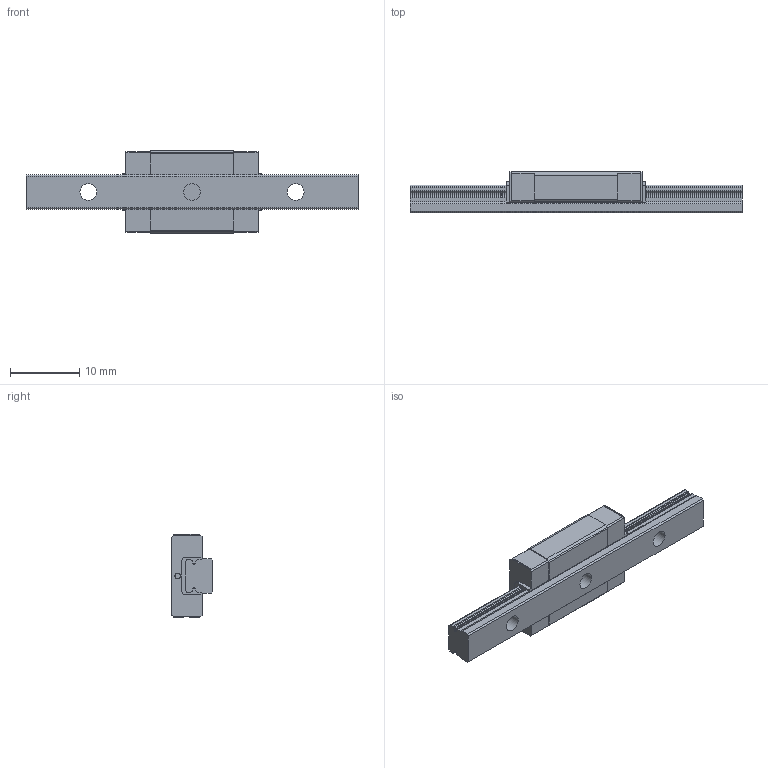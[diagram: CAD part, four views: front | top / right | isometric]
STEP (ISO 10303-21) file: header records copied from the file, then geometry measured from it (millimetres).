
FILE_DESCRIPTION(/* description */ ('STEP AP203'),/* implementation_level */ '2;1');
FILE_NAME(/* name */ 'RSX5NMUU-48LM_G9_0_Without grease nipple_13-95_0_0_0_1',/* time_stamp */ '2024-05-21T10:25:05+02:00',/* author */ ('License CC BY-ND 4.0'),/* organization */ ('CADENAS'),/* preprocessor_version */ 'ST-DEVELOPER v19.3',/* originating_system */ 'PARTsolutions',/* authorisation */ ' ');
FILE_SCHEMA (('CONFIG_CONTROL_DESIGN'));
Length unit declared in the file: millimetre
Products named in the file (3): RSX5NMUU-48LM_G9_0_Without grease nipple_13-95_0_0_0_1; RSX5M489 Track; RSX5NMUU1 Slider
Assembly tree (2 placements, depth 2):
  RSX5NMUU-48LM_G9_0_Without grease nipple_13-95_0_0_0_1
    RSX5M489 Track
    RSX5NMUU1 Slider
Bounding box: 48 x 6 x 12 mm (x, y, z)
Volume: 1607.1 mm3; surface area: 1877.4 mm2
Topology: 2 solids, 2 shells, 174 faces, 483 edges, 318 vertices
Faces by surface type: plane 110, cylinder 60, cone 4
Full cylindrical faces by diameter (mm): 0.8 x2, 1.567 x2, 2.4 x3, 3.5 x3
Entity records: 5548 total; most frequent: CARTESIAN_POINT 958, DIRECTION 947, ORIENTED_EDGE 930, EDGE_CURVE 465, LINE 337, VECTOR 337, VERTEX_POINT 316, AXIS2_PLACEMENT_3D 305
